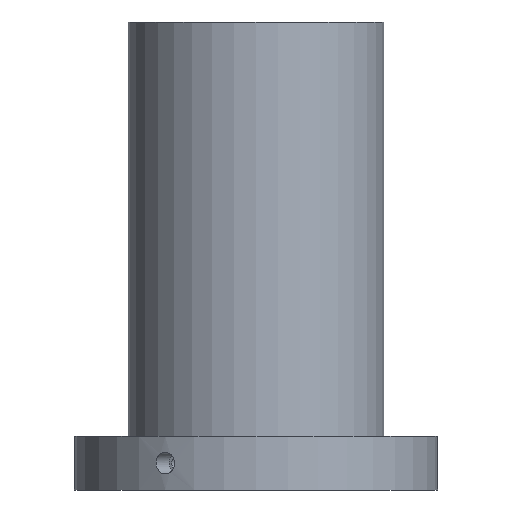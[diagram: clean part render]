
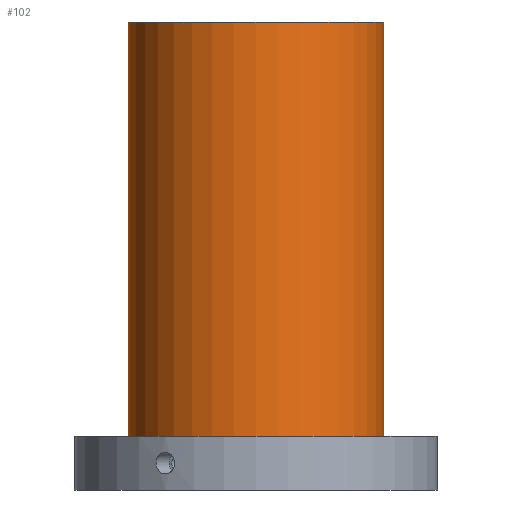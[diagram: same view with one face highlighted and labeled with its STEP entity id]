
A CAD part, front view. The second image highlights one B-rep face of the part: STEP entity #102.
In plain terms, the highlighted cylindrical face has radius 47.5 mm (diameter 95 mm), a full revolution.
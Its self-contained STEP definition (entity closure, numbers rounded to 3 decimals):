
#102=ADVANCED_FACE('',(#136,#137),#119,.T.);
#119=CYLINDRICAL_SURFACE('',#371,47.5);
#136=FACE_BOUND('',#188,.T.);
#137=FACE_BOUND('',#189,.T.);
#188=EDGE_LOOP('',(#240));
#189=EDGE_LOOP('',(#241));
#240=ORIENTED_EDGE('',*,*,#318,.F.);
#241=ORIENTED_EDGE('',*,*,#319,.T.);
#292=VERTEX_POINT('',#557);
#293=VERTEX_POINT('',#559);
#318=EDGE_CURVE('',#292,#292,#343,.T.);
#319=EDGE_CURVE('',#293,#293,#344,.T.);
#343=CIRCLE('',#369,47.5);
#344=CIRCLE('',#370,47.5);
#369=AXIS2_PLACEMENT_3D('',#556,#415,#416);
#370=AXIS2_PLACEMENT_3D('',#558,#417,#418);
#371=AXIS2_PLACEMENT_3D('',#560,#419,#420);
#415=DIRECTION('',(0.,0.,-1.));
#416=DIRECTION('',(1.,0.,0.));
#417=DIRECTION('',(0.,0.,-1.));
#418=DIRECTION('',(1.,0.,0.));
#419=DIRECTION('',(0.,0.,-1.));
#420=DIRECTION('',(-1.,0.,0.));
#556=CARTESIAN_POINT('',(0.,0.,20.));
#557=CARTESIAN_POINT('',(47.5,0.,20.));
#558=CARTESIAN_POINT('',(0.,0.,174.));
#559=CARTESIAN_POINT('',(47.5,0.,174.));
#560=CARTESIAN_POINT('',(0.,0.,174.));
